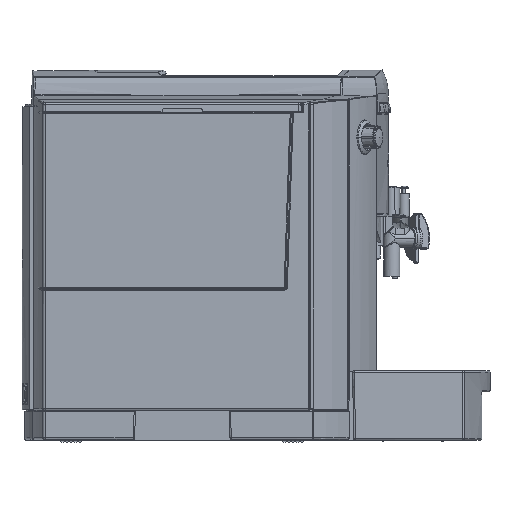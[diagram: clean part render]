
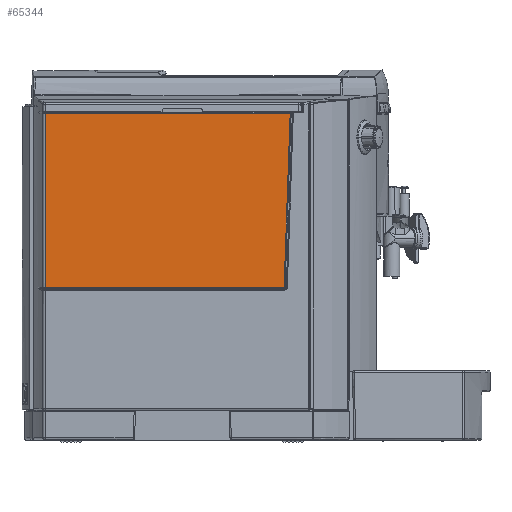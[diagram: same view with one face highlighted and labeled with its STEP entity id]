
A CAD part, left-side view. The second image highlights one B-rep face of the part: STEP entity #65344.
In plain terms, the highlighted planar face has unit normal (-1, 0, 0).
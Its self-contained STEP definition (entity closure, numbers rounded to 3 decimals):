
#9966 = VERTEX_POINT ( 'NONE', #43612 ) ;
#9967 = VERTEX_POINT ( 'NONE', #43614 ) ;
#9971 = VERTEX_POINT ( 'NONE', #43621 ) ;
#9990 = VERTEX_POINT ( 'NONE', #43657 ) ;
#10181 = VERTEX_POINT ( 'NONE', #43904 ) ;
#26703 =( BOUNDED_CURVE ( )  B_SPLINE_CURVE ( 3, ( #57846, #57841, #57853, #57854 ),
 .UNSPECIFIED., .F., .F. ) 
 B_SPLINE_CURVE_WITH_KNOTS ( ( 4, 4 ),
 ( 3.176, 4.712 ),
 .UNSPECIFIED. ) 
 CURVE ( )  GEOMETRIC_REPRESENTATION_ITEM ( )  RATIONAL_B_SPLINE_CURVE ( ( 1., 0.813, 0.813, 1. ) ) 
 REPRESENTATION_ITEM ( '' )  );
#31610 = EDGE_CURVE ( 'NONE', #9967, #9990, #53013, .T. ) ;
#31618 = EDGE_CURVE ( 'NONE', #9971, #9967, #53018, .T. ) ;
#31627 = EDGE_CURVE ( 'NONE', #9966, #9971, #26703, .T. ) ;
#31633 = EDGE_CURVE ( 'NONE', #10181, #9966, #53025, .T. ) ;
#31669 = EDGE_CURVE ( 'NONE', #9990, #10181, #53045, .T. ) ;
#32942 = AXIS2_PLACEMENT_3D ( 'NONE', #38033, #38038, #38039 ) ;
#38032 = PLANE ( 'NONE',  #32942 ) ;
#38033 = CARTESIAN_POINT ( 'NONE',  ( -185., 290.935, 350.153 ) ) ;
#38038 = DIRECTION ( 'NONE',  ( 1., 0., 0. ) ) ;
#38039 = DIRECTION ( 'NONE',  ( 0., 1., 0. ) ) ;
#38758 = FACE_OUTER_BOUND ( 'NONE', #68768, .T. ) ;
#43612 = CARTESIAN_POINT ( 'NONE',  ( -185., 49.073, 123.17 ) ) ;
#43614 = CARTESIAN_POINT ( 'NONE',  ( -185., 42.473, 298.353 ) ) ;
#43621 = CARTESIAN_POINT ( 'NONE',  ( -185., 48.574, 123.653 ) ) ;
#43657 = CARTESIAN_POINT ( 'NONE',  ( -185., 288.725, 298.353 ) ) ;
#43904 = CARTESIAN_POINT ( 'NONE',  ( -185., 288.725, 123.17 ) ) ;
#53013 = LINE ( 'NONE', #57826, #53016 ) ;
#53016 = VECTOR ( 'NONE', #57811, 1000. ) ;
#53018 = LINE ( 'NONE', #57837, #53021 ) ;
#53021 = VECTOR ( 'NONE', #57835, 1000. ) ;
#53025 = LINE ( 'NONE', #57855, #53027 ) ;
#53027 = VECTOR ( 'NONE', #57862, 1000. ) ;
#53045 = LINE ( 'NONE', #57918, #53048 ) ;
#53048 = VECTOR ( 'NONE', #57919, 1000. ) ;
#57811 = DIRECTION ( 'NONE',  ( 0., 1., 0. ) ) ;
#57826 = CARTESIAN_POINT ( 'NONE',  ( -185., 288.725, 298.353 ) ) ;
#57835 = DIRECTION ( 'NONE',  ( 0., -0.035, 0.999 ) ) ;
#57837 = CARTESIAN_POINT ( 'NONE',  ( -185., 40.969, 341.424 ) ) ;
#57841 = CARTESIAN_POINT ( 'NONE',  ( -185., 48.789, 123.17 ) ) ;
#57846 = CARTESIAN_POINT ( 'NONE',  ( -185., 49.073, 123.17 ) ) ;
#57853 = CARTESIAN_POINT ( 'NONE',  ( -185., 48.584, 123.368 ) ) ;
#57854 = CARTESIAN_POINT ( 'NONE',  ( -185., 48.574, 123.653 ) ) ;
#57855 = CARTESIAN_POINT ( 'NONE',  ( -185., 290.935, 123.17 ) ) ;
#57862 = DIRECTION ( 'NONE',  ( 0., -1., 0. ) ) ;
#57918 = CARTESIAN_POINT ( 'NONE',  ( -185., 288.725, 350.153 ) ) ;
#57919 = DIRECTION ( 'NONE',  ( 0., 0., -1. ) ) ;
#65344 = ADVANCED_FACE ( 'NONE', ( #38758 ), #38032, .F. ) ;
#67380 = ORIENTED_EDGE ( 'NONE', *, *, #31618, .T. ) ;
#67381 = ORIENTED_EDGE ( 'NONE', *, *, #31610, .T. ) ;
#67382 = ORIENTED_EDGE ( 'NONE', *, *, #31669, .T. ) ;
#67383 = ORIENTED_EDGE ( 'NONE', *, *, #31633, .T. ) ;
#67384 = ORIENTED_EDGE ( 'NONE', *, *, #31627, .T. ) ;
#68768 = EDGE_LOOP ( 'NONE', ( #67380, #67381, #67382, #67383, #67384 ) ) ;
